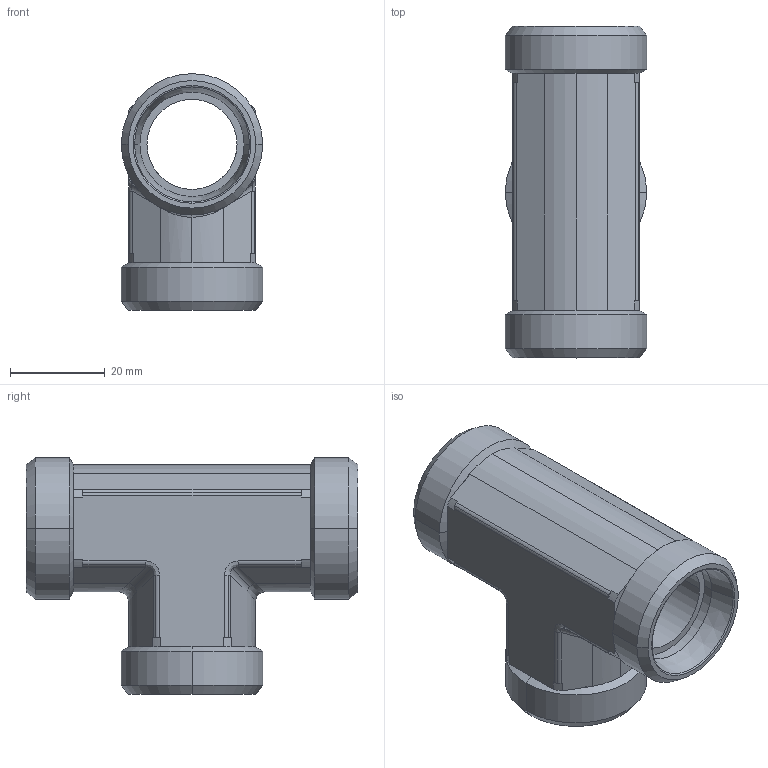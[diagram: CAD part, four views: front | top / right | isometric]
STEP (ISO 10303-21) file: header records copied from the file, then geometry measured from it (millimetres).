
FILE_DESCRIPTION((''),'2;1');
FILE_NAME('103910.stp','2007-10-31T13:09:39',(''),(''),'AutoCAD STEP 2000i','AutoCAD 2000i',', , ');
FILE_SCHEMA(('CONFIG_CONTROL_DESIGN'));
Length unit declared in the file: millimetre
Products named in the file (2): 103910.0; 3091#0
Assembly tree (1 placements, depth 2):
  103910.0
    3091#0
Bounding box: 29.82 x 70 x 49.91 mm (x, y, z)
Volume: 28103.1 mm3; surface area: 14791.3 mm2
Topology: 1 solids, 1 shells, 139 faces, 346 edges, 211 vertices
Faces by surface type: cylinder 67, plane 42, cone 18, bspline 12
Entity records: 5074 total; most frequent: CARTESIAN_POINT 1548, DIRECTION 785, ORIENTED_EDGE 692, EDGE_CURVE 346, AXIS2_PLACEMENT_3D 310, VERTEX_POINT 211, VECTOR 165, LINE 165
